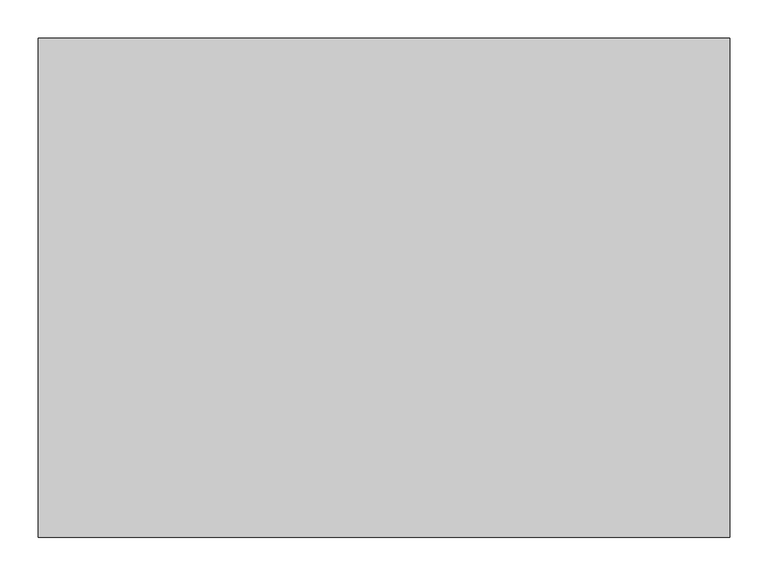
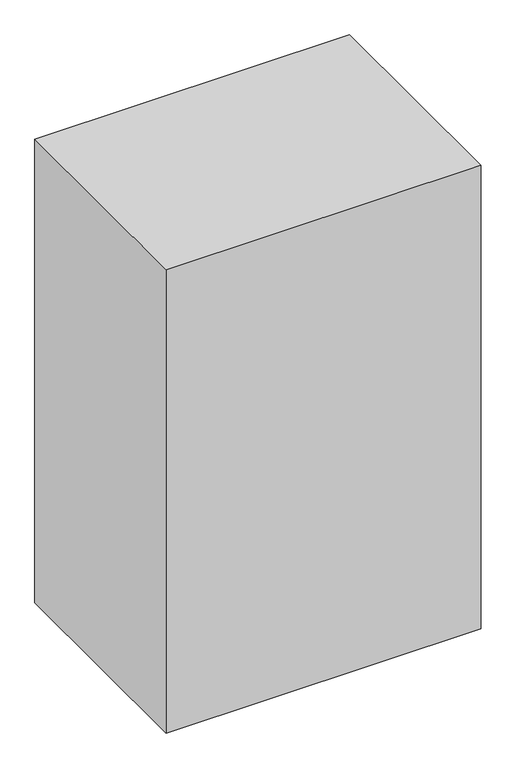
"""IFC4 building model written with IfcOpenShell, lengths in millimetres: electric distribution board geometry, 51100_給油口ボックス : ポンプ内蔵."""

from ifc_helpers import new_model, si_unit, origin, origin_with_axes, place, context, project, spatial, polyline, outline, extrude, source, transform, mapped, element, save


def electric_distribution_board_7f65f68d(model_context):
    return source(origin(), model_context, "Body", "SweptSolid", [
        extrude(outline(polyline([(450.0, -650.0), (-450.0, -650.0), (-450.0, 0.0), (450.0, 0.0), (450.0, -650.0)])), origin_with_axes(), (0.0, 0.0, 1.0), 1400.0),
    ])


if __name__ == "__main__":
    model = new_model("IFC4")
    model_context = context("Model", 3, world=origin())
    ifc_project = project(units=[si_unit("LENGTHUNIT", "METRE", prefix="MILLI")], contexts=[model_context])
    site = spatial("IfcSite", under=ifc_project)
    building = spatial("IfcBuilding", under=site)
    placement = place(None, origin())
    electric_distribution_board_shape = electric_distribution_board_7f65f68d(model_context)
    element("IfcElectricDistributionBoard", 1, ObjectType="51100_給油口ボックス : ポンプ内蔵", at=placement, inside=building, context=model_context, shape_type="MappedRepresentation", body=[
        mapped(electric_distribution_board_shape, transform((0.0, 0.0, 0.0), x_axis=(1.0, 0.0, 0.0), y_axis=(0.0, 1.0, 0.0), z_axis=(0.0, 0.0, 1.0))),
    ])
    save(model, "model.ifc")
